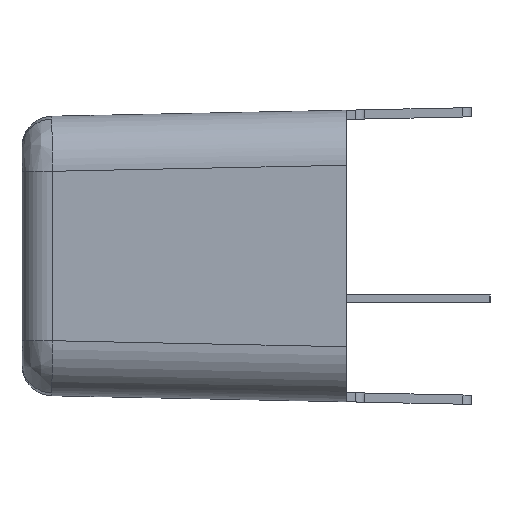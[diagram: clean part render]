
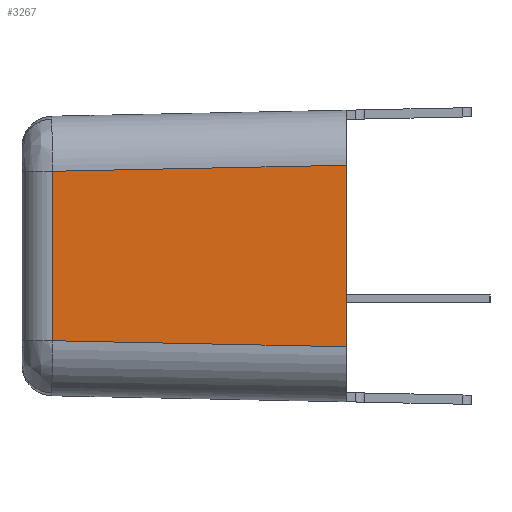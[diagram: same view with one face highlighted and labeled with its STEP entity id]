
A CAD part, left-side view. The second image highlights one B-rep face of the part: STEP entity #3267.
In plain terms, the highlighted planar face has unit normal (-1, 0.007, 0).
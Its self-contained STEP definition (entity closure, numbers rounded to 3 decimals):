
#7 = AXIS2_PLACEMENT_3D ( 'NONE', #382, #2950, #1027 ) ;
#32 = VERTEX_POINT ( 'NONE', #2451 ) ;
#178 = VERTEX_POINT ( 'NONE', #1509 ) ;
#206 = VECTOR ( 'NONE', #3617, 1000. ) ;
#236 = FACE_OUTER_BOUND ( 'NONE', #2048, .T. ) ;
#382 = CARTESIAN_POINT ( 'NONE',  ( -10.949, 0.074, 0. ) ) ;
#416 = DIRECTION ( 'NONE',  ( 0., 0., -1. ) ) ;
#419 = LINE ( 'NONE', #1368, #1988 ) ;
#563 = EDGE_CURVE ( 'NONE', #178, #1583, #419, .T. ) ;
#634 = VECTOR ( 'NONE', #1393, 1000. ) ;
#874 = CARTESIAN_POINT ( 'NONE',  ( -10.949, 0.137, 3.047 ) ) ;
#943 = LINE ( 'NONE', #3935, #206 ) ;
#967 = CARTESIAN_POINT ( 'NONE',  ( -10.922, 4.1, 2.966 ) ) ;
#1027 = DIRECTION ( 'NONE',  ( -0.007, -1., 0. ) ) ;
#1209 = EDGE_CURVE ( 'NONE', #1583, #32, #943, .T. ) ;
#1303 = VERTEX_POINT ( 'NONE', #967 ) ;
#1368 = CARTESIAN_POINT ( 'NONE',  ( -10.857, 13.707, 0. ) ) ;
#1393 = DIRECTION ( 'NONE',  ( 0., 0., 1. ) ) ;
#1509 = CARTESIAN_POINT ( 'NONE',  ( -10.857, 13.707, 2.77 ) ) ;
#1536 = ORIENTED_EDGE ( 'NONE', *, *, #2081, .T. ) ;
#1583 = VERTEX_POINT ( 'NONE', #3302 ) ;
#1808 = DIRECTION ( 'NONE',  ( 0.007, 1., -0.02 ) ) ;
#1845 = VECTOR ( 'NONE', #1808, 1000. ) ;
#1988 = VECTOR ( 'NONE', #416, 1000. ) ;
#2048 = EDGE_LOOP ( 'NONE', ( #2076, #2948, #4100, #1536 ) ) ;
#2076 = ORIENTED_EDGE ( 'NONE', *, *, #4097, .T. ) ;
#2081 = EDGE_CURVE ( 'NONE', #32, #1303, #3136, .T. ) ;
#2261 = PLANE ( 'NONE',  #7 ) ;
#2451 = CARTESIAN_POINT ( 'NONE',  ( -10.922, 4.1, -2.966 ) ) ;
#2731 = LINE ( 'NONE', #874, #1845 ) ;
#2948 = ORIENTED_EDGE ( 'NONE', *, *, #563, .T. ) ;
#2950 = DIRECTION ( 'NONE',  ( -1., 0.007, 0. ) ) ;
#3136 = LINE ( 'NONE', #3676, #634 ) ;
#3267 = ADVANCED_FACE ( 'NONE', ( #236 ), #2261, .T. ) ;
#3302 = CARTESIAN_POINT ( 'NONE',  ( -10.857, 13.707, -2.77 ) ) ;
#3617 = DIRECTION ( 'NONE',  ( -0.007, -1., -0.02 ) ) ;
#3676 = CARTESIAN_POINT ( 'NONE',  ( -10.922, 4.1, 0. ) ) ;
#3935 = CARTESIAN_POINT ( 'NONE',  ( -10.949, 0.137, -3.047 ) ) ;
#4097 = EDGE_CURVE ( 'NONE', #1303, #178, #2731, .T. ) ;
#4100 = ORIENTED_EDGE ( 'NONE', *, *, #1209, .T. ) ;
